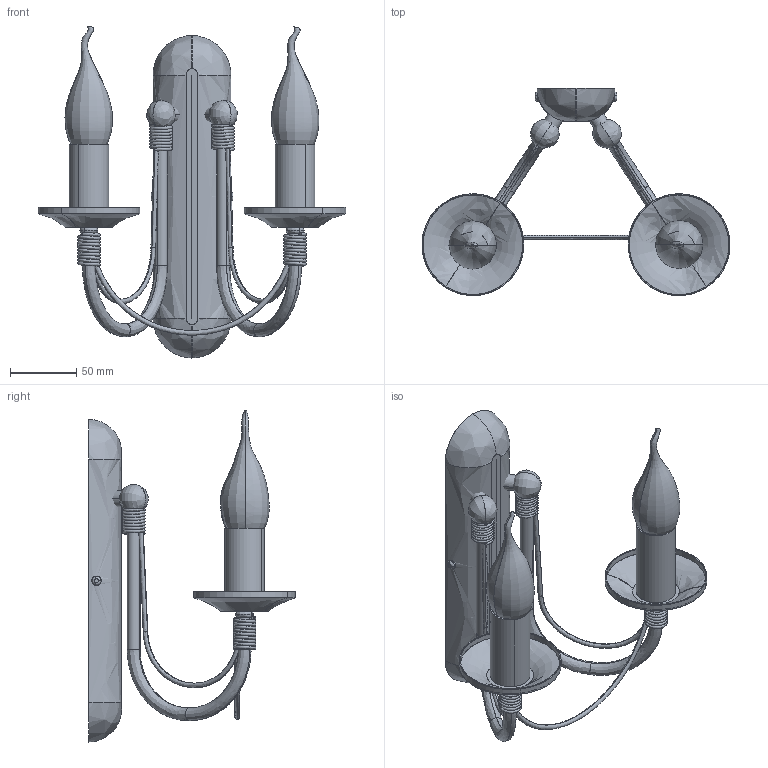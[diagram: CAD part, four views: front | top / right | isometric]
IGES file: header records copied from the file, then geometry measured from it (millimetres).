
Start section: SolidWorks IGES file using analytic representation for surfaces
Global section: file name: C:\Users\anna.bielnik\Desktop\modele 3D tymczasowe\ARES\ARES-203\ares-203-d.IGS; native system: SolidWorks 2023; preprocessor: SolidWorks 2023; author: anna.bielnik; date: 230807.111625; units: millimetre
Bounding box: 232.99 x 156.52 x 251.16 mm (x, y, z)
Surface area: 132138.7 mm2 (no closed solid volume)
Topology: 0 solids, 0 shells, 133 faces, 2854 edges, 2850 vertices
Faces by surface type: bspline 89, revolution 44
